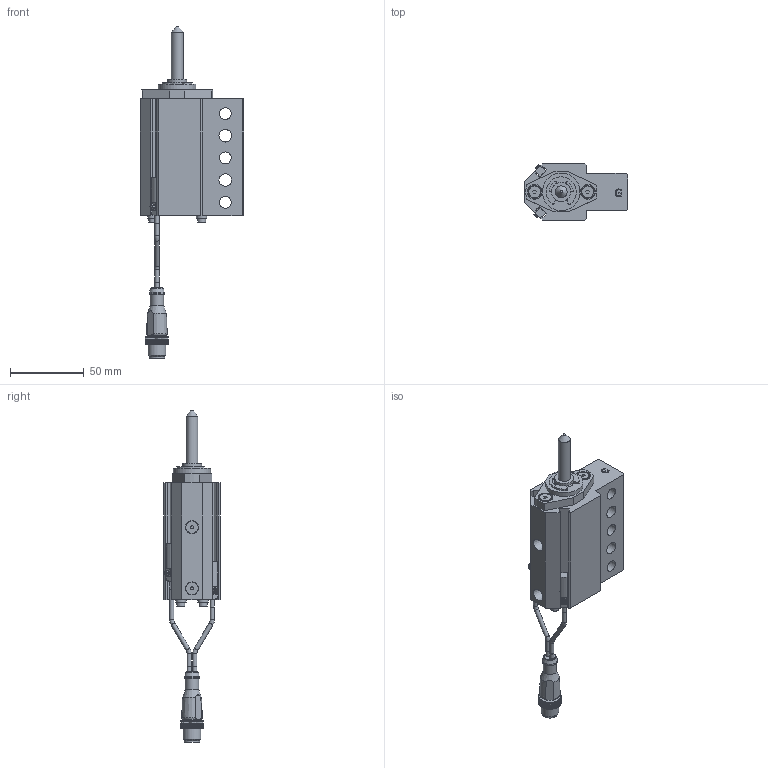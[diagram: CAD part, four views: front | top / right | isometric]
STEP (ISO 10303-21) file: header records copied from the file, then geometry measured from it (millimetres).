
FILE_DESCRIPTION(/* description */ ('NAAMS FLOATING MICRO PIN'),/* implementation_level */ '2;1');
FILE_NAME(/* name */ 'C:\Vault Workspace\CAD\Welker\Shot Pin\NMP\NMP080032GANL3.stp',/* time_stamp */ '2021-01-27T08:42:05-05:00',/* author */ ('WELKER'),/* organization */ (''),/* preprocessor_version */ 'ST-DEVELOPER v18.1',/* originating_system */ 'Autodesk Inventor 2020',/* authorisation */ '');
FILE_SCHEMA (('AUTOMOTIVE_DESIGN { 1 0 10303 214 3 1 1 }'));
Length unit declared in the file: millimetre
Products named in the file (16): NMPL01; NMP L3 SWITCH; L3 Connector; L3 Sensor 1; L3 Sensor 2; L3 Sensor cable; L3 Sensor cable 2; M3X0.5-8 SHCS; NL3; NMPE06; NMPE03; NMPE05-DIA-LENGTH; 985432A218; NMPE01G-PORT; RMPE02; M5X5 SHOULDER
Assembly tree (22 placements, depth 3):
  NMPL01
    NMP L3 SWITCH
      L3 Connector
      L3 Sensor 1
      L3 Sensor 2
      L3 Sensor cable
      L3 Sensor cable 2
    M3X0.5-8 SHCS  x4
    NL3  x4
    NMPE06
    NMPE03
    NMPE05-DIA-LENGTH
    985432A218
    NMPE01G-PORT
    RMPE02
    M5X5 SHOULDER  x2
Bounding box: 70 x 38.1 x 224.73 mm (x, y, z)
Volume: 132518.9 mm3; surface area: 49854.3 mm2
Topology: 21 solids, 21 shells, 760 faces, 2090 edges, 1402 vertices
Faces by surface type: plane 546, cylinder 149, cone 35, bspline 16, torus 11, sphere 3
Full cylindrical faces by diameter (mm): 2 x2, 2.459 x4, 2.9 x10, 3 x5, 3.242 x2, 3.4 x4, 4 x2, 5 x6, 5.5 x4, 6.647 x2, 7 x4, 8 x6, 8.3 x2, 8.5 x2, 9 x3, 10 x3, 10.4 x1, 10.5 x1, 12 x1, 13 x3, 16 x2, 19.05 x3, 21 x1, 22.5 x1, 23.673 x1, 24 x1, 25.4 x1, 25.5 x1, 26.5 x1, 28.677 x1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
Entity records: 23785 total; most frequent: CARTESIAN_POINT 4688, ORIENTED_EDGE 3870, DIRECTION 3771, EDGE_CURVE 1935, LINE 1391, VECTOR 1391, VERTEX_POINT 1307, AXIS2_PLACEMENT_3D 1190
